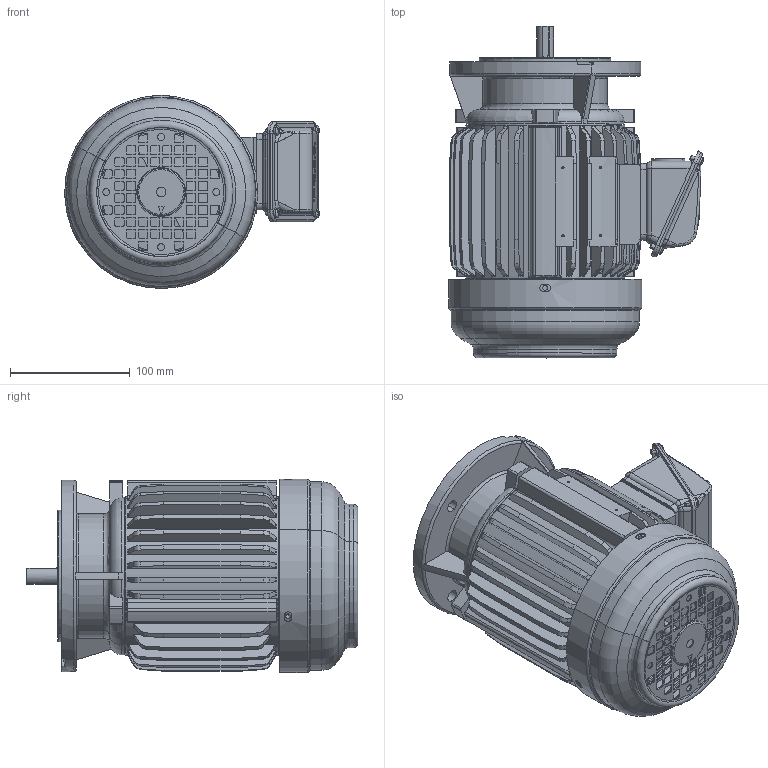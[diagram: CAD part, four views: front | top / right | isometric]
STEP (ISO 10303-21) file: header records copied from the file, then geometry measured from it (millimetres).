
FILE_DESCRIPTION(('CATIA V5 STEP Exchange'),'2;1');
FILE_NAME('D:\3D 外形圖\F系列\AEUL\71\AEUL#71_AllCATPart.stp','2009-09-08T11:34:09+00:00',('none'),('none'),'CATIA Version 5 Release 17 (IN-10)','CATIA V5 STEP AP203','none');
FILE_SCHEMA(('CONFIG_CONTROL_DESIGN'));
Length unit declared in the file: millimetre
Products named in the file (1): AEUL#71_AllCATPart
Bounding box: 213.01 x 277.5 x 161.48 mm (x, y, z)
Volume: 1062278.9 mm3; surface area: 499373 mm2
Topology: 13 solids, 13 shells, 2602 faces, 7142 edges, 4604 vertices
Faces by surface type: plane 1191, cylinder 691, torus 336, cone 213, bspline 148, sphere 19, revolution 4
Entity records: 88566 total; most frequent: CARTESIAN_POINT 29515, ORIENTED_EDGE 14172, DIRECTION 8749, EDGE_CURVE 7086, VERTEX_POINT 4585, AXIS2_PLACEMENT_3D 3749, VECTOR 3239, LINE 3239
